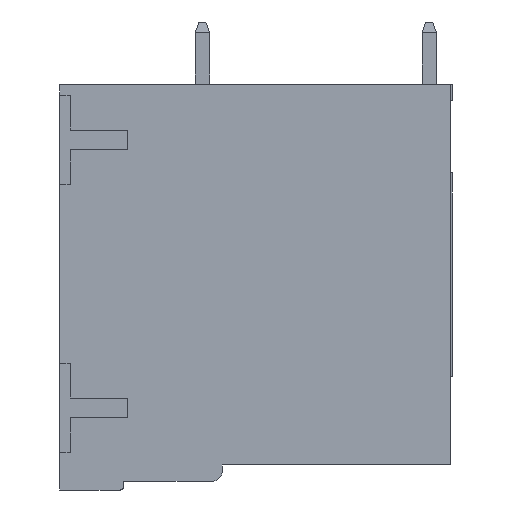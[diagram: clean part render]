
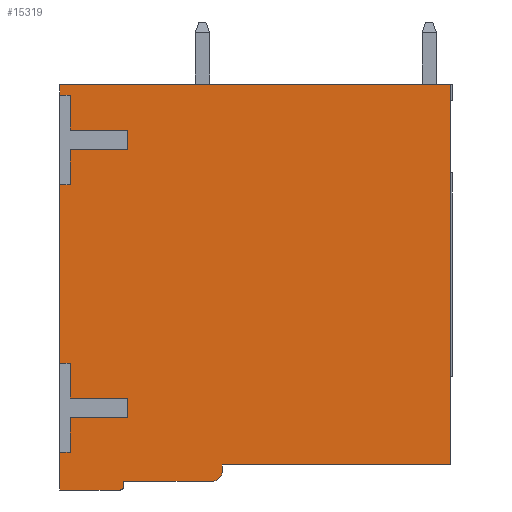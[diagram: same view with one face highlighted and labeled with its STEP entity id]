
A CAD part, left-side view. The second image highlights one B-rep face of the part: STEP entity #15319.
In plain terms, the highlighted planar face has unit normal (-1, 0, 0).
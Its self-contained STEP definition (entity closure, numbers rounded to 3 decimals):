
#915=DIRECTION('',(0.,0.,1.));
#916=VECTOR('',#915,0.6);
#917=CARTESIAN_POINT('',(7.625,21.9,-0.6));
#918=LINE('',#917,#916);
#923=DIRECTION('',(0.,0.,1.));
#924=VECTOR('',#923,10.);
#925=CARTESIAN_POINT('',(7.625,21.9,-15.6));
#926=LINE('',#925,#924);
#927=DIRECTION('',(0.,0.,1.));
#928=VECTOR('',#927,2.1);
#929=CARTESIAN_POINT('',(7.625,21.9,-22.7));
#930=LINE('',#929,#928);
#1848=DIRECTION('',(0.,-1.,0.));
#1849=VECTOR('',#1848,21.9);
#1850=CARTESIAN_POINT('',(7.625,21.9,0.));
#1851=LINE('',#1850,#1849);
#4379=DIRECTION('',(0.,1.,0.));
#4380=VECTOR('',#4379,12.8);
#4381=CARTESIAN_POINT('',(7.625,0.,-21.3));
#4382=LINE('',#4381,#4380);
#4395=DIRECTION('',(0.,0.,-1.));
#4396=VECTOR('',#4395,0.4);
#4397=CARTESIAN_POINT('',(7.625,12.8,-21.3));
#4398=LINE('',#4397,#4396);
#4411=DIRECTION('',(0.,1.,0.));
#4412=VECTOR('',#4411,5.);
#4413=CARTESIAN_POINT('',(7.625,13.3,-22.2));
#4414=LINE('',#4413,#4412);
#4423=DIRECTION('',(0.,0.,-1.));
#4424=VECTOR('',#4423,0.3);
#4425=CARTESIAN_POINT('',(7.625,18.3,-22.2));
#4426=LINE('',#4425,#4424);
#4439=DIRECTION('',(0.,1.,0.));
#4440=VECTOR('',#4439,3.4);
#4441=CARTESIAN_POINT('',(7.625,18.5,-22.7));
#4442=LINE('',#4441,#4440);
#4447=DIRECTION('',(0.,0.,1.));
#4448=VECTOR('',#4447,21.3);
#4449=CARTESIAN_POINT('',(7.625,0.,-21.3));
#4450=LINE('',#4449,#4448);
#4451=CARTESIAN_POINT('',(7.625,13.3,-21.7));
#4452=DIRECTION('',(-1.,0.,0.));
#4453=DIRECTION('',(0.,0.,-1.));
#4454=AXIS2_PLACEMENT_3D('',#4451,#4452,#4453);
#4456=CARTESIAN_POINT('',(7.625,18.5,-22.5));
#4457=DIRECTION('',(-1.,0.,0.));
#4458=DIRECTION('',(0.,0.,-1.));
#4459=AXIS2_PLACEMENT_3D('',#4456,#4457,#4458);
#4461=DIRECTION('',(0.,-1.,0.));
#4462=VECTOR('',#4461,0.6);
#4463=CARTESIAN_POINT('',(7.625,21.9,-5.6));
#4464=LINE('',#4463,#4462);
#4469=DIRECTION('',(0.,0.,1.));
#4470=VECTOR('',#4469,1.95);
#4471=CARTESIAN_POINT('',(7.625,21.3,-5.6));
#4472=LINE('',#4471,#4470);
#4481=DIRECTION('',(0.,-1.,0.));
#4482=VECTOR('',#4481,3.2);
#4483=CARTESIAN_POINT('',(7.625,21.3,-3.65));
#4484=LINE('',#4483,#4482);
#4489=DIRECTION('',(0.,0.,1.));
#4490=VECTOR('',#4489,1.1);
#4491=CARTESIAN_POINT('',(7.625,18.1,-3.65));
#4492=LINE('',#4491,#4490);
#4497=DIRECTION('',(0.,1.,0.));
#4498=VECTOR('',#4497,3.2);
#4499=CARTESIAN_POINT('',(7.625,18.1,-2.55));
#4500=LINE('',#4499,#4498);
#4505=DIRECTION('',(0.,0.,1.));
#4506=VECTOR('',#4505,1.95);
#4507=CARTESIAN_POINT('',(7.625,21.3,-2.55));
#4508=LINE('',#4507,#4506);
#4513=DIRECTION('',(0.,1.,0.));
#4514=VECTOR('',#4513,0.6);
#4515=CARTESIAN_POINT('',(7.625,21.3,-0.6));
#4516=LINE('',#4515,#4514);
#4553=DIRECTION('',(0.,-1.,0.));
#4554=VECTOR('',#4553,0.6);
#4555=CARTESIAN_POINT('',(7.625,21.9,-20.6));
#4556=LINE('',#4555,#4554);
#4565=DIRECTION('',(0.,0.,1.));
#4566=VECTOR('',#4565,1.95);
#4567=CARTESIAN_POINT('',(7.625,21.3,-20.6));
#4568=LINE('',#4567,#4566);
#4573=DIRECTION('',(0.,-1.,0.));
#4574=VECTOR('',#4573,3.2);
#4575=CARTESIAN_POINT('',(7.625,21.3,-18.65));
#4576=LINE('',#4575,#4574);
#4581=DIRECTION('',(0.,0.,1.));
#4582=VECTOR('',#4581,1.1);
#4583=CARTESIAN_POINT('',(7.625,18.1,-18.65));
#4584=LINE('',#4583,#4582);
#4589=DIRECTION('',(0.,1.,0.));
#4590=VECTOR('',#4589,3.2);
#4591=CARTESIAN_POINT('',(7.625,18.1,-17.55));
#4592=LINE('',#4591,#4590);
#4597=DIRECTION('',(0.,0.,1.));
#4598=VECTOR('',#4597,1.95);
#4599=CARTESIAN_POINT('',(7.625,21.3,-17.55));
#4600=LINE('',#4599,#4598);
#4605=DIRECTION('',(0.,1.,0.));
#4606=VECTOR('',#4605,0.6);
#4607=CARTESIAN_POINT('',(7.625,21.3,-15.6));
#4608=LINE('',#4607,#4606);
#7527=CARTESIAN_POINT('',(7.625,0.,-21.3));
#7528=CARTESIAN_POINT('',(7.625,0.,0.));
#7529=VERTEX_POINT('',#7527);
#7530=VERTEX_POINT('',#7528);
#7535=CARTESIAN_POINT('',(7.625,21.9,-5.6));
#7536=CARTESIAN_POINT('',(7.625,21.3,-5.6));
#7537=VERTEX_POINT('',#7535);
#7538=VERTEX_POINT('',#7536);
#7539=CARTESIAN_POINT('',(7.625,21.3,-3.65));
#7540=VERTEX_POINT('',#7539);
#7541=CARTESIAN_POINT('',(7.625,18.1,-3.65));
#7542=VERTEX_POINT('',#7541);
#7543=CARTESIAN_POINT('',(7.625,18.1,-2.55));
#7544=VERTEX_POINT('',#7543);
#7545=CARTESIAN_POINT('',(7.625,21.3,-2.55));
#7546=VERTEX_POINT('',#7545);
#7547=CARTESIAN_POINT('',(7.625,21.3,-0.6));
#7548=VERTEX_POINT('',#7547);
#7549=CARTESIAN_POINT('',(7.625,21.9,-0.6));
#7550=VERTEX_POINT('',#7549);
#7551=CARTESIAN_POINT('',(7.625,21.9,0.));
#7552=VERTEX_POINT('',#7551);
#7553=CARTESIAN_POINT('',(7.625,12.8,-21.3));
#7554=VERTEX_POINT('',#7553);
#7555=CARTESIAN_POINT('',(7.625,12.8,-21.7));
#7556=VERTEX_POINT('',#7555);
#7557=CARTESIAN_POINT('',(7.625,13.3,-22.2));
#7558=VERTEX_POINT('',#7557);
#7559=CARTESIAN_POINT('',(7.625,18.3,-22.2));
#7560=VERTEX_POINT('',#7559);
#7561=CARTESIAN_POINT('',(7.625,18.3,-22.5));
#7562=VERTEX_POINT('',#7561);
#7563=CARTESIAN_POINT('',(7.625,18.5,-22.7));
#7564=VERTEX_POINT('',#7563);
#7565=CARTESIAN_POINT('',(7.625,21.9,-22.7));
#7566=VERTEX_POINT('',#7565);
#7567=CARTESIAN_POINT('',(7.625,21.9,-20.6));
#7568=VERTEX_POINT('',#7567);
#7569=CARTESIAN_POINT('',(7.625,21.3,-20.6));
#7570=VERTEX_POINT('',#7569);
#7571=CARTESIAN_POINT('',(7.625,21.3,-18.65));
#7572=VERTEX_POINT('',#7571);
#7573=CARTESIAN_POINT('',(7.625,18.1,-18.65));
#7574=VERTEX_POINT('',#7573);
#7575=CARTESIAN_POINT('',(7.625,18.1,-17.55));
#7576=VERTEX_POINT('',#7575);
#7577=CARTESIAN_POINT('',(7.625,21.3,-17.55));
#7578=VERTEX_POINT('',#7577);
#7579=CARTESIAN_POINT('',(7.625,21.3,-15.6));
#7580=VERTEX_POINT('',#7579);
#7581=CARTESIAN_POINT('',(7.625,21.9,-15.6));
#7582=VERTEX_POINT('',#7581);
#15272=CARTESIAN_POINT('',(7.625,0.,-0.721));
#15273=DIRECTION('',(1.,0.,0.));
#15274=DIRECTION('',(0.,0.,1.));
#15275=AXIS2_PLACEMENT_3D('',#15272,#15273,#15274);
#15276=PLANE('',#15275);
#15277=ORIENTED_EDGE('',*,*,#10146,.T.);
#15279=ORIENTED_EDGE('',*,*,#15278,.T.);
#15281=ORIENTED_EDGE('',*,*,#15280,.T.);
#15283=ORIENTED_EDGE('',*,*,#15282,.T.);
#15285=ORIENTED_EDGE('',*,*,#15284,.T.);
#15287=ORIENTED_EDGE('',*,*,#15286,.T.);
#15289=ORIENTED_EDGE('',*,*,#15288,.T.);
#15291=ORIENTED_EDGE('',*,*,#15290,.T.);
#15292=ORIENTED_EDGE('',*,*,#10138,.T.);
#15293=ORIENTED_EDGE('',*,*,#11742,.T.);
#15294=ORIENTED_EDGE('',*,*,#15156,.F.);
#15295=ORIENTED_EDGE('',*,*,#15175,.T.);
#15296=ORIENTED_EDGE('',*,*,#15190,.T.);
#15297=ORIENTED_EDGE('',*,*,#15205,.F.);
#15298=ORIENTED_EDGE('',*,*,#15220,.T.);
#15299=ORIENTED_EDGE('',*,*,#15235,.T.);
#15300=ORIENTED_EDGE('',*,*,#15250,.F.);
#15301=ORIENTED_EDGE('',*,*,#15264,.T.);
#15302=ORIENTED_EDGE('',*,*,#10154,.T.);
#15304=ORIENTED_EDGE('',*,*,#15303,.T.);
#15306=ORIENTED_EDGE('',*,*,#15305,.T.);
#15308=ORIENTED_EDGE('',*,*,#15307,.T.);
#15310=ORIENTED_EDGE('',*,*,#15309,.T.);
#15312=ORIENTED_EDGE('',*,*,#15311,.T.);
#15314=ORIENTED_EDGE('',*,*,#15313,.T.);
#15316=ORIENTED_EDGE('',*,*,#15315,.T.);
#15317=EDGE_LOOP('',(#15277,#15279,#15281,#15283,#15285,#15287,#15289,#15291,
#15292,#15293,#15294,#15295,#15296,#15297,#15298,#15299,#15300,#15301,#15302,
#15304,#15306,#15308,#15310,#15312,#15314,#15316));
#15318=FACE_OUTER_BOUND('',#15317,.F.);
#15319=ADVANCED_FACE('',(#15318),#15276,.F.);
#4455=CIRCLE('',#4454,0.5);
#4460=CIRCLE('',#4459,0.2);
#10138=EDGE_CURVE('',#7550,#7552,#918,.T.);
#10146=EDGE_CURVE('',#7582,#7537,#926,.T.);
#10154=EDGE_CURVE('',#7566,#7568,#930,.T.);
#11742=EDGE_CURVE('',#7552,#7530,#1851,.T.);
#15156=EDGE_CURVE('',#7529,#7530,#4450,.T.);
#15175=EDGE_CURVE('',#7529,#7554,#4382,.T.);
#15190=EDGE_CURVE('',#7554,#7556,#4398,.T.);
#15205=EDGE_CURVE('',#7558,#7556,#4455,.T.);
#15220=EDGE_CURVE('',#7558,#7560,#4414,.T.);
#15235=EDGE_CURVE('',#7560,#7562,#4426,.T.);
#15250=EDGE_CURVE('',#7564,#7562,#4460,.T.);
#15264=EDGE_CURVE('',#7564,#7566,#4442,.T.);
#15278=EDGE_CURVE('',#7537,#7538,#4464,.T.);
#15280=EDGE_CURVE('',#7538,#7540,#4472,.T.);
#15282=EDGE_CURVE('',#7540,#7542,#4484,.T.);
#15284=EDGE_CURVE('',#7542,#7544,#4492,.T.);
#15286=EDGE_CURVE('',#7544,#7546,#4500,.T.);
#15288=EDGE_CURVE('',#7546,#7548,#4508,.T.);
#15290=EDGE_CURVE('',#7548,#7550,#4516,.T.);
#15303=EDGE_CURVE('',#7568,#7570,#4556,.T.);
#15305=EDGE_CURVE('',#7570,#7572,#4568,.T.);
#15307=EDGE_CURVE('',#7572,#7574,#4576,.T.);
#15309=EDGE_CURVE('',#7574,#7576,#4584,.T.);
#15311=EDGE_CURVE('',#7576,#7578,#4592,.T.);
#15313=EDGE_CURVE('',#7578,#7580,#4600,.T.);
#15315=EDGE_CURVE('',#7580,#7582,#4608,.T.);
